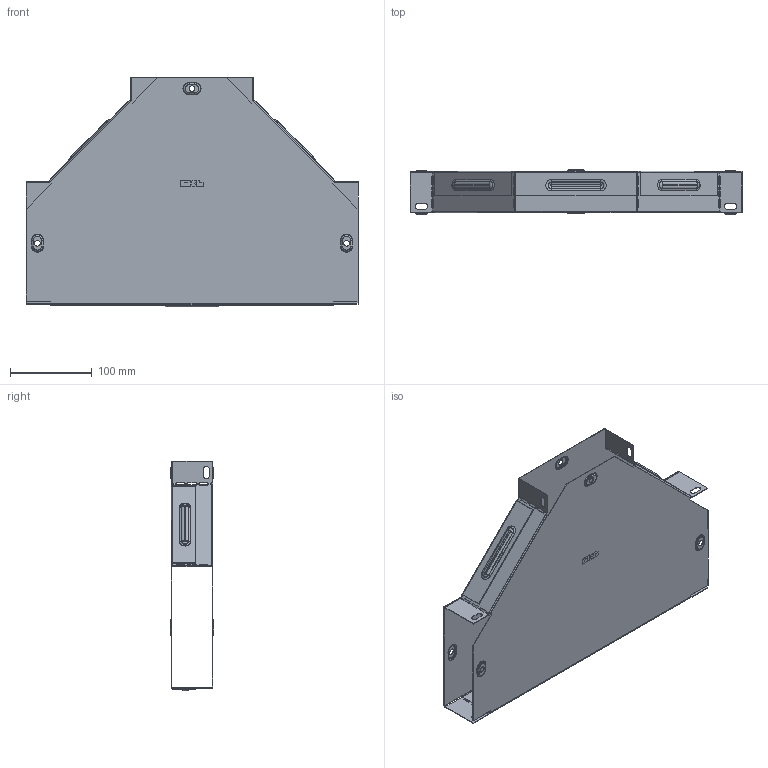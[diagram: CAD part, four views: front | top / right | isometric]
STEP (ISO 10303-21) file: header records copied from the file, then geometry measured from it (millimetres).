
FILE_DESCRIPTION (( 'STEP AP214' ), '1' );
FILE_NAME ('t5015008_捘.STEP', '2019-06-10T08:13:28', ( '砐錪賧瘔蠈錪 Windows' ), ( '' ), 'SwSTEP 2.0', 'SolidWorks 2018', '' );
FILE_SCHEMA (( 'AUTOMOTIVE_DESIGN' ));
Length unit declared in the file: millimetre
Products named in the file (1): t5015008_捘
Bounding box: 406.4 x 53.8 x 281 mm (x, y, z)
Volume: 186942.9 mm3; surface area: 470650.3 mm2
Topology: 2 solids, 2 shells, 626 faces, 1722 edges, 1112 vertices
Faces by surface type: plane 334, cylinder 178, torus 96, bspline 18
Entity records: 20939 total; most frequent: CARTESIAN_POINT 4541, ORIENTED_EDGE 3444, DIRECTION 3404, EDGE_CURVE 1722, VECTOR 1186, LINE 1186, VERTEX_POINT 1112, AXIS2_PLACEMENT_3D 1109
